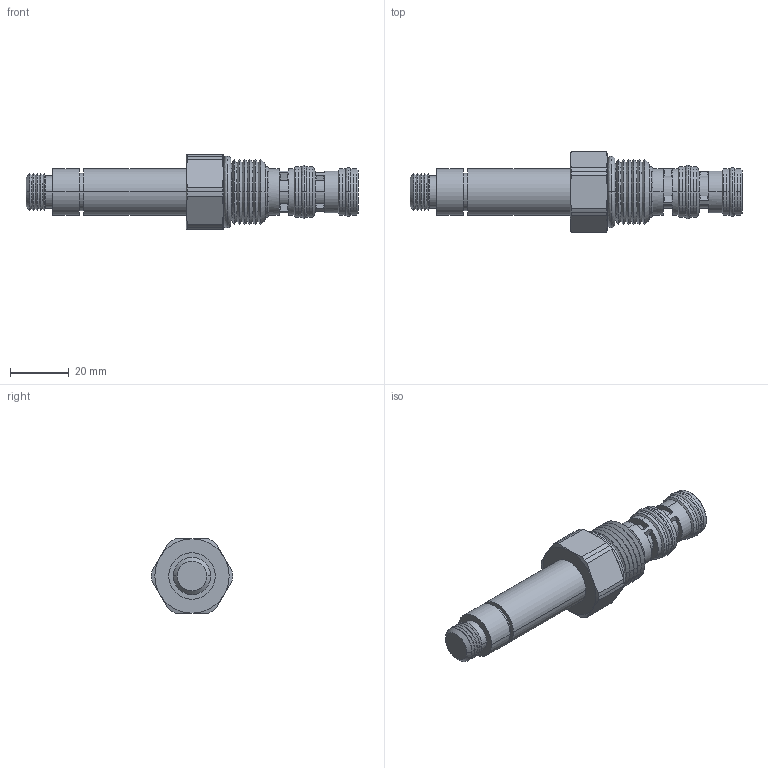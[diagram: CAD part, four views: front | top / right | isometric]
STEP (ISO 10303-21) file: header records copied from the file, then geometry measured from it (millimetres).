
FILE_DESCRIPTION((''),'2;1');
FILE_NAME('U:\Solid model CD\Solid model full\Solenoid\STEP\HFS3A00-3D Full.stp','2008-06-23T11:21:51',('Dan'),(''),'Autodesk Inventor 9','Autodesk Inventor 9','');
FILE_SCHEMA(('AUTOMOTIVE_DESIGN { 1 0 10303 214 1 1 1 1 }'));
Length unit declared in the file: inch
Products named in the file (9): HFS3A00-3D Full; HFS3A00-3D Full1; HFS3A00-3D Full2; HFS3A00-3D Full3; HFS3A00-3D Full4; HFS3A00-3D Full5; HFS3A00-3D Full6; HFS3A00-3D Full7; HFS3A00-3D Full8
Assembly tree (8 placements, depth 2):
  HFS3A00-3D Full
    HFS3A00-3D Full1
    HFS3A00-3D Full2
    HFS3A00-3D Full3
    HFS3A00-3D Full4
    HFS3A00-3D Full5
    HFS3A00-3D Full6
    HFS3A00-3D Full7
    HFS3A00-3D Full8
Bounding box: 113.5 x 27.76 x 25.4 mm (x, y, z)
Volume: 27100.9 mm3; surface area: 10536.4 mm2
Topology: 8 solids, 8 shells, 228 faces, 528 edges, 324 vertices
Faces by surface type: bspline 217, cylinder 8, cone 2, plane 1
Entity records: 10034 total; most frequent: CARTESIAN_POINT 5320, ORIENTED_EDGE 1056, DIRECTION 816, EDGE_CURVE 528, AXIS2_PLACEMENT_3D 332, VERTEX_POINT 324, CIRCLE 304, EDGE_LOOP 250
